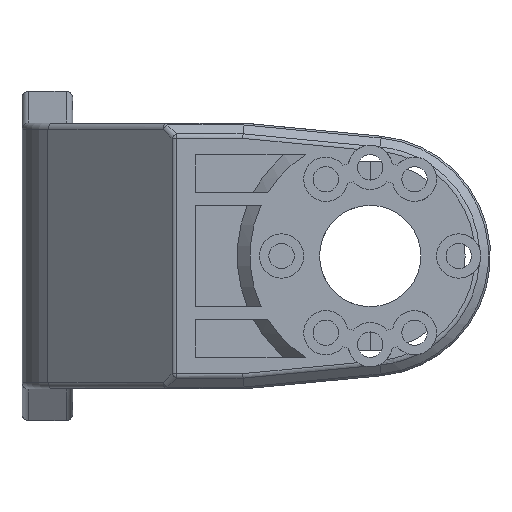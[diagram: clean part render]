
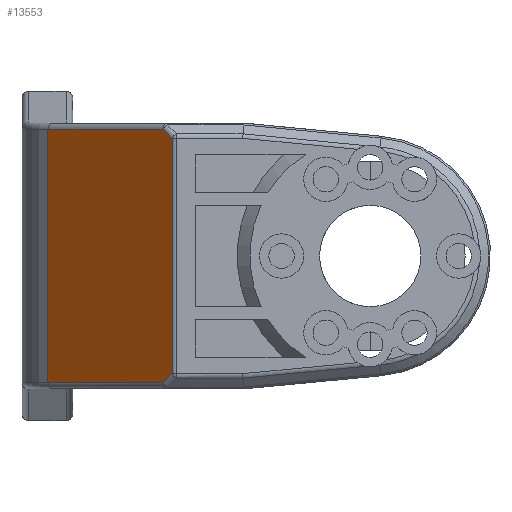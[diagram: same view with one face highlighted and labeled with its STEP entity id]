
A CAD part, left-side view. The second image highlights one B-rep face of the part: STEP entity #13553.
In plain terms, the highlighted planar face has unit normal (-0.707, 0.707, 0).
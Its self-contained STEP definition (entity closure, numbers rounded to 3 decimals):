
#4126=DIRECTION('',(-0.577,-0.577,0.577));
#4127=VECTOR('',#4126,1.225);
#4128=CARTESIAN_POINT('',(-33.296,26.854,
-10.));
#4129=LINE('',#4128,#4127);
#4130=DIRECTION('',(0.707,0.707,0.));
#4131=VECTOR('',#4130,12.864);
#4132=CARTESIAN_POINT('',(-33.296,26.854,
-10.));
#4133=LINE('',#4132,#4131);
#4134=DIRECTION('',(0.,0.,1.));
#4135=VECTOR('',#4134,20.);
#4136=CARTESIAN_POINT('',(-24.2,35.95,-10.));
#4137=LINE('',#4136,#4135);
#4138=DIRECTION('',(-0.707,-0.707,0.));
#4139=VECTOR('',#4138,12.864);
#4140=CARTESIAN_POINT('',(-24.2,35.95,10.));
#4141=LINE('',#4140,#4139);
#4142=DIRECTION('',(0.577,0.577,0.577));
#4143=VECTOR('',#4142,1.225);
#4144=CARTESIAN_POINT('',(-34.004,26.146,9.293));
#4145=LINE('',#4144,#4143);
#4146=DIRECTION('',(0.,0.,-1.));
#4147=VECTOR('',#4146,18.586);
#4148=CARTESIAN_POINT('',(-34.004,26.146,9.293));
#4149=LINE('',#4148,#4147);
#7590=CARTESIAN_POINT('',(-24.2,35.95,10.));
#7592=VERTEX_POINT('',#7590);
#7649=CARTESIAN_POINT('',(-24.2,35.95,-10.));
#7651=VERTEX_POINT('',#7649);
#7653=CARTESIAN_POINT('',(-34.004,26.146,
-9.293));
#7655=VERTEX_POINT('',#7653);
#7658=CARTESIAN_POINT('',(-34.004,26.146,9.293));
#7660=VERTEX_POINT('',#7658);
#7677=CARTESIAN_POINT('',(-33.296,26.854,
-10.));
#7678=VERTEX_POINT('',#7677);
#7683=CARTESIAN_POINT('',(-33.296,26.854,10.));
#7684=VERTEX_POINT('',#7683);
#13538=CARTESIAN_POINT('',(-28.15,32.,0.));
#13539=DIRECTION('',(-0.707,0.707,0.));
#13540=DIRECTION('',(0.707,0.707,0.));
#13541=AXIS2_PLACEMENT_3D('',#13538,#13539,#13540);
#13542=PLANE('',#13541);
#13543=ORIENTED_EDGE('',*,*,#13423,.F.);
#13545=ORIENTED_EDGE('',*,*,#13544,.T.);
#13547=ORIENTED_EDGE('',*,*,#13546,.T.);
#13548=ORIENTED_EDGE('',*,*,#13529,.T.);
#13549=ORIENTED_EDGE('',*,*,#13476,.F.);
#13550=ORIENTED_EDGE('',*,*,#13450,.T.);
#13551=EDGE_LOOP('',(#13543,#13545,#13547,#13548,#13549,#13550));
#13552=FACE_OUTER_BOUND('',#13551,.F.);
#13553=ADVANCED_FACE('',(#13552),#13542,.T.);
#13423=EDGE_CURVE('',#7678,#7655,#4129,.T.);
#13450=EDGE_CURVE('',#7660,#7655,#4149,.T.);
#13476=EDGE_CURVE('',#7660,#7684,#4145,.T.);
#13529=EDGE_CURVE('',#7592,#7684,#4141,.T.);
#13544=EDGE_CURVE('',#7678,#7651,#4133,.T.);
#13546=EDGE_CURVE('',#7651,#7592,#4137,.T.);
